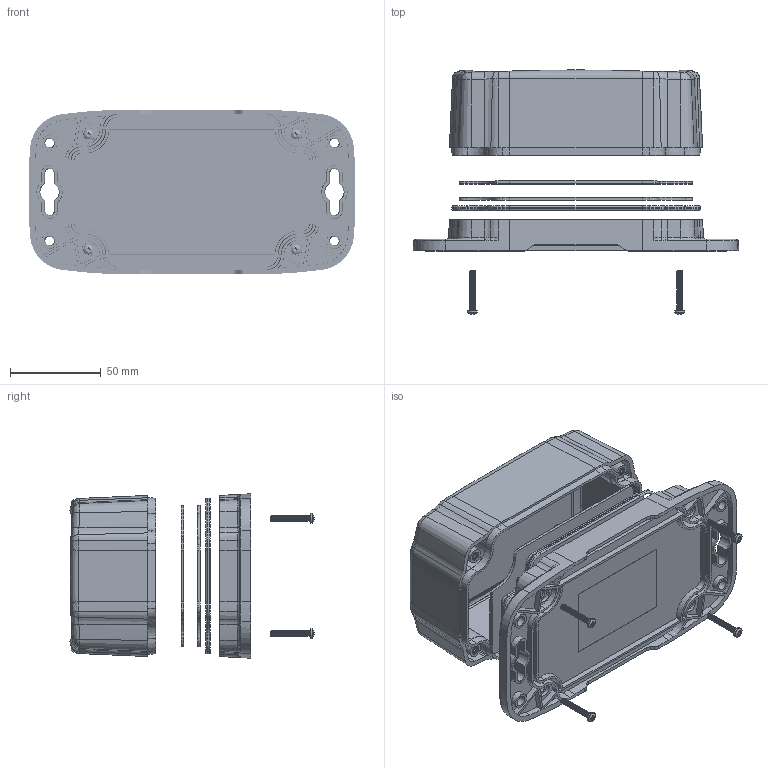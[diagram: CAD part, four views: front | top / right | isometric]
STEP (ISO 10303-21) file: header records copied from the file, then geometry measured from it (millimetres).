
FILE_DESCRIPTION (( 'STEP AP214' ), '1' );
FILE_NAME ('HD-36FMMT.STEP', '2020-09-25T13:15:10', ( '' ), ( '' ), 'SwSTEP 2.0', 'SolidWorks 2016', '' );
FILE_SCHEMA (( 'AUTOMOTIVE_DESIGN' ));
Length unit declared in the file: inch
Products named in the file (7): HD-35B_HD-35BFMB; HD-35xC_HD-36CMBT; HD-36FMMT; HD-35B-PCB_HD-35B-PCB; HD-35C-PCB_HD-35C-PCB; Gasket-35_GASKET-35*08; SCREWS-SS7-8_SCREWS-SS7-8
Assembly tree (9 placements, depth 2):
  HD-36FMMT
    HD-35B_HD-35BFMB
    HD-35xC_HD-36CMBT
    Gasket-35_GASKET-35*08
    HD-35C-PCB_HD-35C-PCB
    HD-35B-PCB_HD-35B-PCB
    SCREWS-SS7-8_SCREWS-SS7-8  x4
Bounding box: 179.6 x 134.68 x 90.7 mm (x, y, z)
Volume: 212447.4 mm3; surface area: 173298.3 mm2
Topology: 12 solids, 14 shells, 1602 faces, 3810 edges, 2334 vertices
Faces by surface type: cone 464, plane 329, bspline 317, cylinder 256, torus 184, sphere 52
Full cylindrical faces by diameter (mm): 2.088 x4, 2.261 x4, 2.845 x4, 3.175 x8, 3.658 x4, 3.683 x8, 3.912 x4, 4.496 x8, 4.75 x4, 5.563 x4
Entity records: 50132 total; most frequent: CARTESIAN_POINT 20270, ORIENTED_EDGE 6152, DIRECTION 6142, EDGE_CURVE 3078, AXIS2_PLACEMENT_3D 2634, VERTEX_POINT 1976, EDGE_LOOP 1575, CIRCLE 1543
